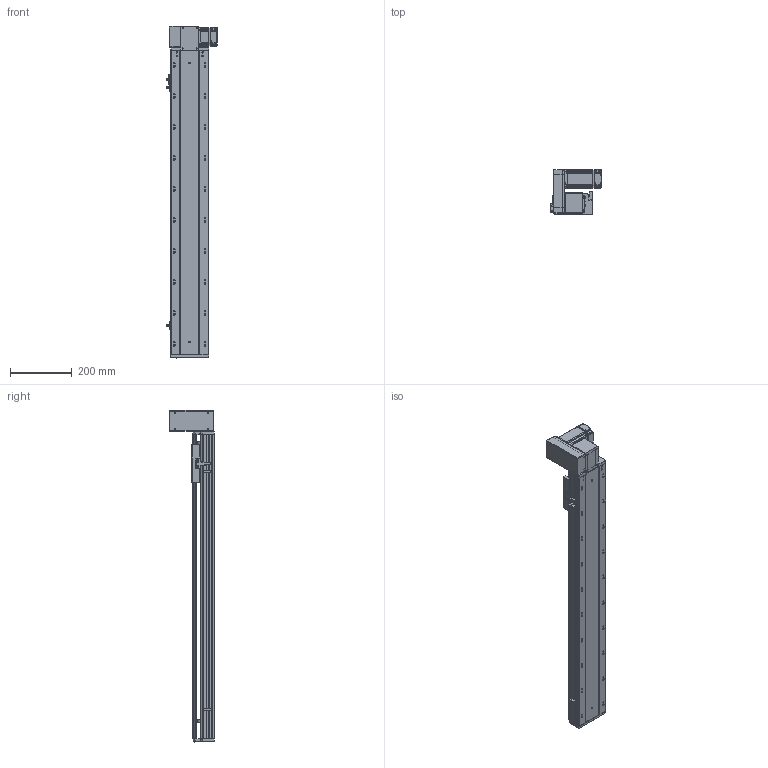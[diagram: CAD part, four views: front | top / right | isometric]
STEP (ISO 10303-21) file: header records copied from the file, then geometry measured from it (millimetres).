
FILE_DESCRIPTION (( 'STEP AP203' ), '1' );
FILE_NAME ('RY120-T-300-UL.SLDASM_750.step', '2021-03-01T05:35:47', ( '盈信电脑' ), ( '东莞市道滘镇水果街19号' ), 'SwSTEP 2.0', 'SolidWorks 2012', '' );
FILE_SCHEMA (( 'CONFIG_CONTROL_DESIGN' ));
Length unit declared in the file: millimetre
Products named in the file (18): RY120-T-300-UL.SLDASM_750; RY120-T萇儂欶; RY120-T翋肮祭謫裔啣; RY120-T蹟翐M4; RY120-T主同步轮轴承压盖; 侂狟400W侜督萇儂; 15; 滅袉蝶18-10; RY120-T翋肮祭盓傅釱; RY120-T肮祭湍揤踡輸2; RY120-T萇儂假蚾啣; RY120外置感应片(140共用）; 覜茼ん672; RY120綴裔啣; RY120-T肮祭湍揤踡輸1; RY120肮祭湍臏賑輸; RY120-T-300-UL倰第奻裔啣_750; RY120-T-300-UL倰第菁釱_750
Assembly tree (23 placements, depth 3):
  RY120-T-300-UL.SLDASM_750
    RY120-T-300-UL倰第菁釱_750
    RY120-T-300-UL倰第奻裔啣_750
    RY120肮祭湍臏賑輸
    RY120綴裔啣
    覜茼ん672  x3
    RY120外置感应片(140共用）
    RY120-T肮祭湍揤踡輸1
    RY120-T肮祭湍揤踡輸2
    RY120-T翋肮祭盓傅釱
    RY120-T萇儂假蚾啣
    侂狟400W侜督萇儂
      15
    RY120-T主同步轮轴承压盖
    滅袉蝶18-10  x2
    RY120-T萇儂欶
    RY120-T蹟翐M4  x4
    RY120-T翋肮祭謫裔啣
Bounding box: 164.2 x 146 x 1071 mm (x, y, z)
Volume: 3063378.4 mm3; surface area: 1135201.7 mm2
Topology: 23 solids, 23 shells, 2910 faces, 7988 edges, 5142 vertices
Faces by surface type: plane 1446, cylinder 1136, cone 239, bspline 89
Entity records: 94288 total; most frequent: CARTESIAN_POINT 24786, ORIENTED_EDGE 14432, DIRECTION 13466, EDGE_CURVE 7216, VERTEX_POINT 4729, AXIS2_PLACEMENT_3D 4521, VECTOR 4424, LINE 4424
